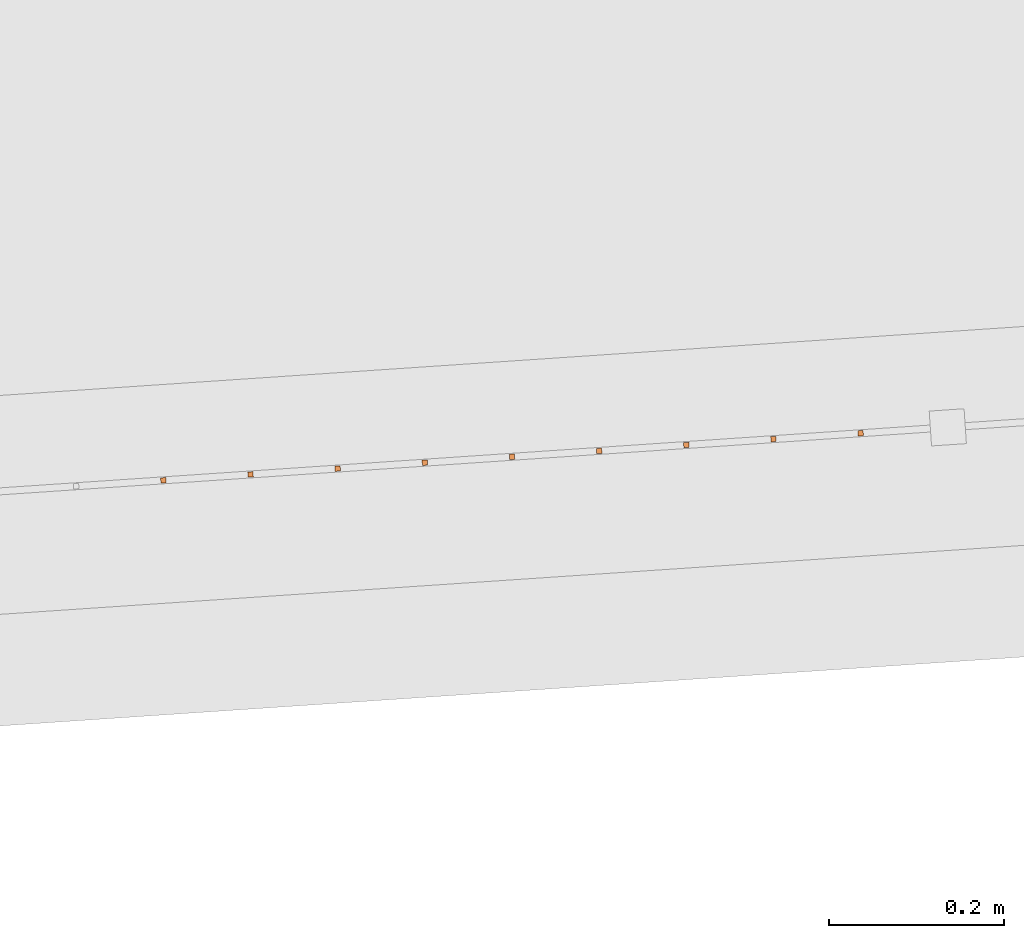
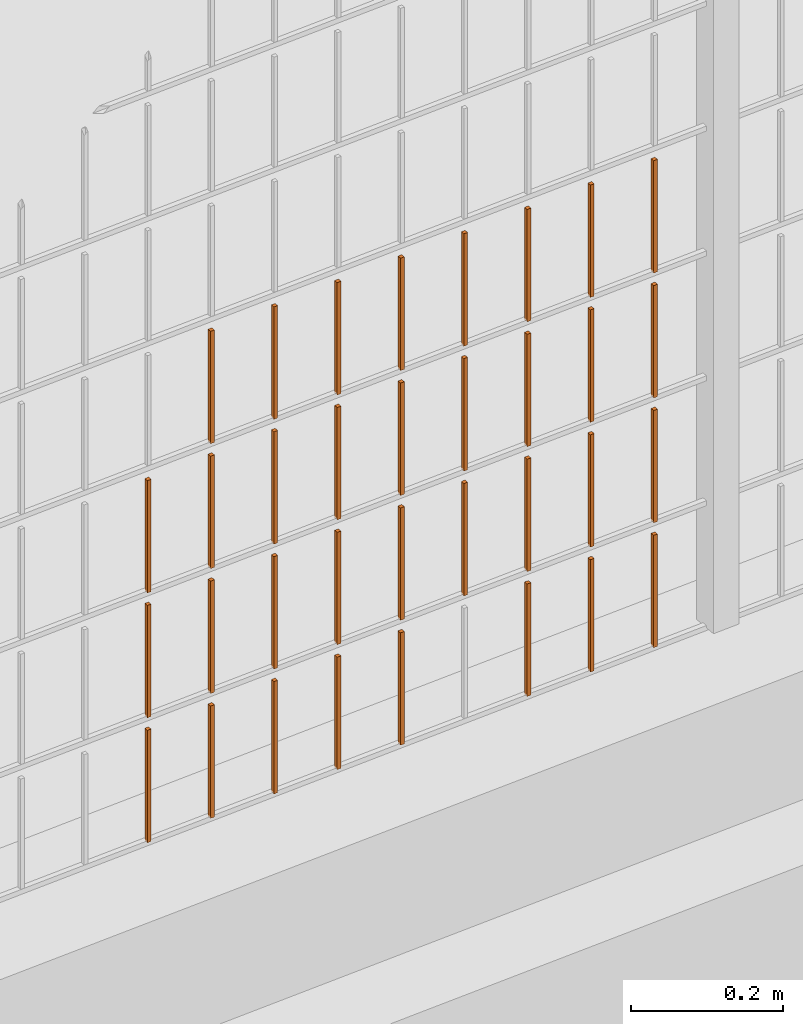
# One storey, part 262 of 1809: 34 proxies, 1 element without a shape of its own.
"""IFC2X3 building model written with IfcOpenShell, lengths in millimetres."""

from ifc_helpers import new_model, entity, si_unit, converted_unit, derived_unit, money_unit, direction, frame, origin_with_axes, place, context, subcontext, project, spatial, faceted_brep, source, transform, mapped, material, type_object, element, aggregate, save


model = new_model("IFC2X3")

# Units and contexts
model_context = context("Model", 3, precision=0.01, world=origin_with_axes(), true_north=direction((0.0, 1.0)))
body_context = subcontext(model_context, "Body", "Model", "MODEL_VIEW")
ifc_project = project(units=[si_unit("LENGTHUNIT", "METRE", prefix="MILLI"), si_unit("AREAUNIT", "SQUARE_METRE"), si_unit("VOLUMEUNIT", "CUBIC_METRE"), converted_unit("PLANEANGLEUNIT", "DEGREE", entity("IfcPlaneAngleMeasure", 0.0174532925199), si_unit("PLANEANGLEUNIT", "RADIAN"), dimensions=[0, 0, 0, 0, 0, 0, 0]), si_unit("SOLIDANGLEUNIT", "STERADIAN"), money_unit("EUR"), converted_unit("TIMEUNIT", "Year", entity("IfcTimeMeasure", 31556926.0), si_unit("TIMEUNIT", "SECOND"), dimensions=[0, 0, 1, 0, 0, 0, 0]), si_unit("MASSUNIT", "GRAM", prefix="KILO"), si_unit("THERMODYNAMICTEMPERATUREUNIT", "DEGREE_CELSIUS"), si_unit("LUMINOUSINTENSITYUNIT", "LUMEN"), si_unit("ENERGYUNIT", "JOULE", prefix="MEGA"), derived_unit("THERMALCONDUCTANCEUNIT", [(si_unit("POWERUNIT", "WATT"), 1), (si_unit("LENGTHUNIT", "METRE"), -1), (si_unit("THERMODYNAMICTEMPERATUREUNIT", "KELVIN"), -1)]), derived_unit("SPECIFICHEATCAPACITYUNIT", [(si_unit("ENERGYUNIT", "JOULE"), 1), (si_unit("MASSUNIT", "GRAM", prefix="KILO"), -1), (si_unit("THERMODYNAMICTEMPERATUREUNIT", "KELVIN"), -1)]), derived_unit("MASSDENSITYUNIT", [(si_unit("MASSUNIT", "GRAM", prefix="KILO"), 1), (si_unit("VOLUMEUNIT", "CUBIC_METRE"), -1)])], contexts=[model_context])

# Site, building, storey
site_placement = place(None, origin_with_axes())
site = spatial("IfcSite", under=ifc_project, at=site_placement, Name="Politse- ja Piirivalveameti ning Päästeameti ühishoone", CompositionType="ELEMENT")
building_placement = place(site_placement, origin_with_axes())
building = spatial("IfcBuilding", under=site, at=building_placement, Name="Politse- ja Piirivalveameti ning Päästeameti ühishoone", CompositionType="ELEMENT")
storey_placement = place(building_placement, origin_with_axes())
storey = spatial("IfcBuildingStorey", under=building, at=storey_placement, Name="Esimene korrus", CompositionType="ELEMENT", Elevation=0.0)

# Proxies
building_element_proxy_type_1 = type_object("IfcBuildingElementProxyType", Name="Railing Type", PredefinedType="NOTDEFINED")
proxy_1_placement = place(storey_placement, frame((89252.001212, -29183.4766571, 203.661247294), z_axis=(0.0, 0.0, 1.0), x_axis=(1.0, 0.0, 0.0)))
proxy_1 = element("IfcBuildingElementProxy", 1, at=proxy_1_placement, inside=storey, type_object=building_element_proxy_type_1, Name="PIIRDEAED")
ifc_material = material(Name="ET-03_Raud")
building_element_proxy_type_2 = type_object("IfcBuildingElementProxyType", Name="IfcBuildingElementProxy", PredefinedType="NOTDEFINED")
shared_shape_1 = source(origin_with_axes(), body_context, "Body", "Brep", [
    faceted_brep([(3.0, 3.0, -0.000752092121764), (-3.0, 3.0, -0.000752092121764), (-3.0, 3.0, 179.99926046), (3.0, 3.0, 179.99926046), (3.0, -3.0, 0.000752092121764), (-3.0, -3.0, 0.000752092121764), (-3.0, -3.0, 180.000764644), (3.0, -3.0, 180.000764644)], [[[0, 1, 2, 3]], [[0, 4, 5, 1]], [[1, 5, 6, 2]], [[3, 2, 6, 7]], [[4, 0, 3, 7]], [[5, 4, 7, 6]]]),
])
proxy_2_placement = place(proxy_1_placement, frame((-57894.7660487, -21208.3477212, 212.687247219), z_axis=(0.0, 0.0, 1.0), x_axis=(1.0, 0.0, 0.0)))
proxy_2 = element("IfcBuildingElementProxy", 2, at=proxy_2_placement, type_object=building_element_proxy_type_2, material=ifc_material, Name="BALUSTER - 001", context=body_context, shape_type="MappedRepresentation", body=[
    mapped(shared_shape_1, transform((0.0, 0.0, 0.0), x_axis=(-0.0673926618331, 0.997726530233, 0.0), y_axis=(-0.997726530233, -0.0673926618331, 0.0), z_axis=(0.0, 0.0, 1.0))),
])
proxy_3_placement = place(proxy_1_placement, frame((-57894.7660487, -21208.3477212, 612.687247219), z_axis=(0.0, 0.0, 1.0), x_axis=(1.0, 0.0, 0.0)))
proxy_3 = element("IfcBuildingElementProxy", 3, at=proxy_3_placement, type_object=building_element_proxy_type_2, material=ifc_material, Name="BALUSTER - 001", context=body_context, shape_type="MappedRepresentation", body=[
    mapped(shared_shape_1, transform((0.0, 0.0, 0.0), x_axis=(-0.0673926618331, 0.997726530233, 0.0), y_axis=(-0.997726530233, -0.0673926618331, 0.0), z_axis=(0.0, 0.0, 1.0))),
])
shared_shape_2 = source(origin_with_axes(), body_context, "Body", "Brep", [
    faceted_brep([(3.0, 3.0, -0.000752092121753), (-3.0, 3.0, -0.000752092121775), (-3.0, 3.0, 179.99926046), (3.0, 3.0, 179.99926046), (3.0, -3.0, 0.000752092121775), (-3.0, -3.0, 0.000752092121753), (-3.0, -3.0, 180.000764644), (3.0, -3.0, 180.000764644)], [[[0, 1, 2, 3]], [[0, 4, 5, 1]], [[1, 5, 6, 2]], [[3, 2, 6, 7]], [[4, 0, 3, 7]], [[5, 4, 7, 6]]]),
])
proxy_4_placement = place(proxy_1_placement, frame((-57695.2207427, -21194.8691889, 212.737386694), z_axis=(0.0, 0.0, 1.0), x_axis=(1.0, 0.0, 0.0)))
proxy_4 = element("IfcBuildingElementProxy", 4, at=proxy_4_placement, type_object=building_element_proxy_type_2, material=ifc_material, Name="BALUSTER - 001", context=body_context, shape_type="MappedRepresentation", body=[
    mapped(shared_shape_2, transform((0.0, 0.0, 0.0), x_axis=(-0.0673926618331, 0.997726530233, 0.0), y_axis=(-0.997726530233, -0.0673926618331, 0.0), z_axis=(0.0, 0.0, 1.0))),
])
shared_shape_3 = source(origin_with_axes(), body_context, "Body", "Brep", [
    faceted_brep([(3.0, 3.0, -0.000752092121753), (-3.0, 3.0, -0.000752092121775), (-3.0, 3.0, 179.99926046), (3.0, 3.0, 179.99926046), (3.0, -3.0, 0.000752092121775), (-3.0, -3.0, 0.000752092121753), (-3.0, -3.0, 180.000764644), (3.0, -3.0, 180.000764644)], [[[0, 1, 2, 3]], [[0, 4, 5, 1]], [[1, 5, 6, 2]], [[3, 2, 6, 7]], [[4, 0, 3, 7]], [[5, 4, 7, 6]]]),
])
proxy_5_placement = place(proxy_1_placement, frame((-57695.2207427, -21194.8691889, 612.737386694), z_axis=(0.0, 0.0, 1.0), x_axis=(1.0, 0.0, 0.0)))
proxy_5 = element("IfcBuildingElementProxy", 5, at=proxy_5_placement, type_object=building_element_proxy_type_2, material=ifc_material, Name="BALUSTER - 001", context=body_context, shape_type="MappedRepresentation", body=[
    mapped(shared_shape_3, transform((0.0, 0.0, 0.0), x_axis=(-0.0673926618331, 0.997726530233, 0.0), y_axis=(-0.997726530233, -0.0673926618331, 0.0), z_axis=(0.0, 0.0, 1.0))),
])
shared_shape_4 = source(origin_with_axes(), body_context, "Body", "Brep", [
    faceted_brep([(3.0, 3.0, -0.000752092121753), (-3.0, 3.0, -0.000752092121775), (-3.0, 3.0, 179.99926046), (3.0, 3.0, 179.99926046), (3.0, -3.0, 0.000752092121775), (-3.0, -3.0, 0.000752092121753), (-3.0, -3.0, 180.000764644), (3.0, -3.0, 180.000764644)], [[[0, 1, 2, 3]], [[0, 4, 5, 1]], [[1, 5, 6, 2]], [[3, 2, 6, 7]], [[4, 0, 3, 7]], [[5, 4, 7, 6]]]),
])
proxy_6_placement = place(proxy_1_placement, frame((-57695.2207427, -21194.8691889, 12.7373866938), z_axis=(0.0, 0.0, 1.0), x_axis=(1.0, 0.0, 0.0)))
proxy_6 = element("IfcBuildingElementProxy", 6, at=proxy_6_placement, type_object=building_element_proxy_type_2, material=ifc_material, Name="BALUSTER - 001", context=body_context, shape_type="MappedRepresentation", body=[
    mapped(shared_shape_4, transform((0.0, 0.0, 0.0), x_axis=(-0.0673926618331, 0.997726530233, 0.0), y_axis=(-0.997726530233, -0.0673926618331, 0.0), z_axis=(0.0, 0.0, 1.0))),
])
shared_shape_5 = source(origin_with_axes(), body_context, "Body", "Brep", [
    faceted_brep([(3.0, 3.0, -0.000752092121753), (-3.0, 3.0, -0.000752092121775), (-3.0, 3.0, 179.99926046), (3.0, 3.0, 179.99926046), (3.0, -3.0, 0.000752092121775), (-3.0, -3.0, 0.000752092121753), (-3.0, -3.0, 180.000764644), (3.0, -3.0, 180.000764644)], [[[0, 1, 2, 3]], [[0, 4, 5, 1]], [[1, 5, 6, 2]], [[3, 2, 6, 7]], [[4, 0, 3, 7]], [[5, 4, 7, 6]]]),
])
proxy_7_placement = place(proxy_1_placement, frame((-57695.2207427, -21194.8691889, 412.737386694), z_axis=(0.0, 0.0, 1.0), x_axis=(1.0, 0.0, 0.0)))
proxy_7 = element("IfcBuildingElementProxy", 7, at=proxy_7_placement, type_object=building_element_proxy_type_2, material=ifc_material, Name="BALUSTER - 001", context=body_context, shape_type="MappedRepresentation", body=[
    mapped(shared_shape_5, transform((0.0, 0.0, 0.0), x_axis=(-0.0673926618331, 0.997726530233, 0.0), y_axis=(-0.997726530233, -0.0673926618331, 0.0), z_axis=(0.0, 0.0, 1.0))),
])
shared_shape_6 = source(origin_with_axes(), body_context, "Body", "Brep", [
    faceted_brep([(3.0, 3.0, -0.000752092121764), (-3.0, 3.0, -0.000752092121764), (-3.0, 3.0, 179.99926046), (3.0, 3.0, 179.99926046), (3.0, -3.0, 0.000752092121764), (-3.0, -3.0, 0.000752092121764), (-3.0, -3.0, 180.000764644), (3.0, -3.0, 180.000764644)], [[[0, 1, 2, 3]], [[0, 4, 5, 1]], [[1, 5, 6, 2]], [[3, 2, 6, 7]], [[4, 0, 3, 7]], [[5, 4, 7, 6]]]),
])
proxy_8_placement = place(proxy_1_placement, frame((-57894.7660487, -21208.3477212, 412.687247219), z_axis=(0.0, 0.0, 1.0), x_axis=(1.0, 0.0, 0.0)))
proxy_8 = element("IfcBuildingElementProxy", 8, at=proxy_8_placement, type_object=building_element_proxy_type_2, material=ifc_material, Name="BALUSTER - 001", context=body_context, shape_type="MappedRepresentation", body=[
    mapped(shared_shape_6, transform((0.0, 0.0, 0.0), x_axis=(-0.0673926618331, 0.997726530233, 0.0), y_axis=(-0.997726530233, -0.0673926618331, 0.0), z_axis=(0.0, 0.0, 1.0))),
])
shared_shape_7 = source(origin_with_axes(), body_context, "Body", "Brep", [
    faceted_brep([(3.0, 3.0, -0.000752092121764), (-3.0, 3.0, -0.000752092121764), (-3.0, 3.0, 179.99926046), (3.0, 3.0, 179.99926046), (3.0, -3.0, 0.000752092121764), (-3.0, -3.0, 0.000752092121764), (-3.0, -3.0, 180.000764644), (3.0, -3.0, 180.000764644)], [[[0, 1, 2, 3]], [[0, 4, 5, 1]], [[1, 5, 6, 2]], [[3, 2, 6, 7]], [[4, 0, 3, 7]], [[5, 4, 7, 6]]]),
])
proxy_9_placement = place(proxy_1_placement, frame((-57296.1301306, -21167.9121241, 12.8376656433), z_axis=(0.0, 0.0, 1.0), x_axis=(1.0, 0.0, 0.0)))
proxy_9 = element("IfcBuildingElementProxy", 9, at=proxy_9_placement, type_object=building_element_proxy_type_2, material=ifc_material, Name="BALUSTER - 001", context=body_context, shape_type="MappedRepresentation", body=[
    mapped(shared_shape_7, transform((0.0, 0.0, 0.0), x_axis=(-0.0673926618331, 0.997726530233, 0.0), y_axis=(-0.997726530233, -0.0673926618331, 0.0), z_axis=(0.0, 0.0, 1.0))),
])
shared_shape_8 = source(origin_with_axes(), body_context, "Body", "Brep", [
    faceted_brep([(3.0, 3.0, -0.000752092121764), (-3.0, 3.0, -0.000752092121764), (-3.0, 3.0, 179.99926046), (3.0, 3.0, 179.99926046), (3.0, -3.0, 0.000752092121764), (-3.0, -3.0, 0.000752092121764), (-3.0, -3.0, 180.000764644), (3.0, -3.0, 180.000764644)], [[[0, 1, 2, 3]], [[0, 4, 5, 1]], [[1, 5, 6, 2]], [[3, 2, 6, 7]], [[4, 0, 3, 7]], [[5, 4, 7, 6]]]),
])
proxy_10_placement = place(proxy_1_placement, frame((-57395.9027836, -21174.6513903, 12.8125959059), z_axis=(0.0, 0.0, 1.0), x_axis=(1.0, 0.0, 0.0)))
proxy_10 = element("IfcBuildingElementProxy", 10, at=proxy_10_placement, type_object=building_element_proxy_type_2, material=ifc_material, Name="BALUSTER - 001", context=body_context, shape_type="MappedRepresentation", body=[
    mapped(shared_shape_8, transform((0.0, 0.0, 0.0), x_axis=(-0.0673926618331, 0.997726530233, 0.0), y_axis=(-0.997726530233, -0.0673926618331, 0.0), z_axis=(0.0, 0.0, 1.0))),
])
shared_shape_9 = source(origin_with_axes(), body_context, "Body", "Brep", [
    faceted_brep([(3.0, 3.0, -0.000752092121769), (-3.0, 3.0, -0.000752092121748), (-3.0, 3.0, 179.99926046), (3.0, 3.0, 179.99926046), (3.0, -3.0, 0.000752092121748), (-3.0, -3.0, 0.000752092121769), (-3.0, -3.0, 180.000764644), (3.0, -3.0, 180.000764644)], [[[0, 1, 2, 3]], [[0, 4, 5, 1]], [[1, 5, 6, 2]], [[3, 2, 6, 7]], [[4, 0, 3, 7]], [[5, 4, 7, 6]]]),
])
proxy_11_placement = place(proxy_1_placement, frame((-57495.6754366, -21181.3906565, 12.7875261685), z_axis=(0.0, 0.0, 1.0), x_axis=(1.0, 0.0, 0.0)))
proxy_11 = element("IfcBuildingElementProxy", 11, at=proxy_11_placement, type_object=building_element_proxy_type_2, material=ifc_material, Name="BALUSTER - 001", context=body_context, shape_type="MappedRepresentation", body=[
    mapped(shared_shape_9, transform((0.0, 0.0, 0.0), x_axis=(-0.0673926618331, 0.997726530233, 0.0), y_axis=(-0.997726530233, -0.0673926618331, 0.0), z_axis=(0.0, 0.0, 1.0))),
])
proxy_12_placement = place(proxy_1_placement, frame((-57495.6754366, -21181.3906565, 212.787526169), z_axis=(0.0, 0.0, 1.0), x_axis=(1.0, 0.0, 0.0)))
proxy_12 = element("IfcBuildingElementProxy", 12, at=proxy_12_placement, type_object=building_element_proxy_type_2, material=ifc_material, Name="BALUSTER - 001", context=body_context, shape_type="MappedRepresentation", body=[
    mapped(shared_shape_9, transform((0.0, 0.0, 0.0), x_axis=(-0.0673926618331, 0.997726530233, 0.0), y_axis=(-0.997726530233, -0.0673926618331, 0.0), z_axis=(0.0, 0.0, 1.0))),
])
shared_shape_10 = source(origin_with_axes(), body_context, "Body", "Brep", [
    faceted_brep([(3.0, 3.0, -0.000752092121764), (-3.0, 3.0, -0.000752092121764), (-3.0, 3.0, 179.99926046), (3.0, 3.0, 179.99926046), (3.0, -3.0, 0.000752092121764), (-3.0, -3.0, 0.000752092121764), (-3.0, -3.0, 180.000764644), (3.0, -3.0, 180.000764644)], [[[0, 1, 2, 3]], [[0, 4, 5, 1]], [[1, 5, 6, 2]], [[3, 2, 6, 7]], [[4, 0, 3, 7]], [[5, 4, 7, 6]]]),
])
proxy_13_placement = place(proxy_1_placement, frame((-57794.9933957, -21201.608455, 12.7123169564), z_axis=(0.0, 0.0, 1.0), x_axis=(1.0, 0.0, 0.0)))
proxy_13 = element("IfcBuildingElementProxy", 13, at=proxy_13_placement, type_object=building_element_proxy_type_2, material=ifc_material, Name="BALUSTER - 001", context=body_context, shape_type="MappedRepresentation", body=[
    mapped(shared_shape_10, transform((0.0, 0.0, 0.0), x_axis=(-0.0673926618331, 0.997726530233, 0.0), y_axis=(-0.997726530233, -0.0673926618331, 0.0), z_axis=(0.0, 0.0, 1.0))),
])
shared_shape_11 = source(origin_with_axes(), body_context, "Body", "Brep", [
    faceted_brep([(3.0, 3.0, -0.000752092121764), (-3.0, 3.0, -0.000752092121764), (-3.0, 3.0, 179.99926046), (3.0, 3.0, 179.99926046), (3.0, -3.0, 0.000752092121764), (-3.0, -3.0, 0.000752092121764), (-3.0, -3.0, 180.000764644), (3.0, -3.0, 180.000764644)], [[[0, 1, 2, 3]], [[0, 4, 5, 1]], [[1, 5, 6, 2]], [[3, 2, 6, 7]], [[4, 0, 3, 7]], [[5, 4, 7, 6]]]),
])
proxy_14_placement = place(proxy_1_placement, frame((-57894.7660487, -21208.3477212, 12.687247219), z_axis=(0.0, 0.0, 1.0), x_axis=(1.0, 0.0, 0.0)))
proxy_14 = element("IfcBuildingElementProxy", 14, at=proxy_14_placement, type_object=building_element_proxy_type_2, material=ifc_material, Name="BALUSTER - 001", context=body_context, shape_type="MappedRepresentation", body=[
    mapped(shared_shape_11, transform((0.0, 0.0, 0.0), x_axis=(-0.0673926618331, 0.997726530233, 0.0), y_axis=(-0.997726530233, -0.0673926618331, 0.0), z_axis=(0.0, 0.0, 1.0))),
])
shared_shape_12 = source(origin_with_axes(), body_context, "Body", "Brep", [
    faceted_brep([(3.0, 3.0, -0.000752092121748), (-3.0, 3.0, -0.00075209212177), (-3.0, 3.0, 179.99926046), (3.0, 3.0, 179.99926046), (3.0, -3.0, 0.00075209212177), (-3.0, -3.0, 0.000752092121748), (-3.0, -3.0, 180.000764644), (3.0, -3.0, 180.000764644)], [[[0, 1, 2, 3]], [[0, 4, 5, 1]], [[1, 5, 6, 2]], [[3, 2, 6, 7]], [[4, 0, 3, 7]], [[5, 4, 7, 6]]]),
])
proxy_15_placement = place(proxy_1_placement, frame((-57994.5387017, -21215.0869874, 12.6621774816), z_axis=(0.0, 0.0, 1.0), x_axis=(1.0, 0.0, 0.0)))
proxy_15 = element("IfcBuildingElementProxy", 15, at=proxy_15_placement, type_object=building_element_proxy_type_2, material=ifc_material, Name="BALUSTER - 001", context=body_context, shape_type="MappedRepresentation", body=[
    mapped(shared_shape_12, transform((0.0, 0.0, 0.0), x_axis=(-0.0673926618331, 0.997726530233, 0.0), y_axis=(-0.997726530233, -0.0673926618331, 0.0), z_axis=(0.0, 0.0, 1.0))),
])
shared_shape_13 = source(origin_with_axes(), body_context, "Body", "Brep", [
    faceted_brep([(3.0, 3.0, -0.000752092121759), (-3.0, 3.0, -0.000752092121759), (-3.0, 3.0, 179.99926046), (3.0, 3.0, 179.99926046), (3.0, -3.0, 0.000752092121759), (-3.0, -3.0, 0.000752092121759), (-3.0, -3.0, 180.000764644), (3.0, -3.0, 180.000764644)], [[[0, 1, 2, 3]], [[0, 4, 5, 1]], [[1, 5, 6, 2]], [[3, 2, 6, 7]], [[4, 0, 3, 7]], [[5, 4, 7, 6]]]),
])
proxy_16_placement = place(proxy_1_placement, frame((-58094.3113548, -21221.8262536, 12.6371077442), z_axis=(0.0, 0.0, 1.0), x_axis=(1.0, 0.0, 0.0)))
proxy_16 = element("IfcBuildingElementProxy", 16, at=proxy_16_placement, type_object=building_element_proxy_type_2, material=ifc_material, Name="BALUSTER - 001", context=body_context, shape_type="MappedRepresentation", body=[
    mapped(shared_shape_13, transform((0.0, 0.0, 0.0), x_axis=(-0.0673926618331, 0.997726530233, 0.0), y_axis=(-0.997726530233, -0.0673926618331, 0.0), z_axis=(0.0, 0.0, 1.0))),
])
proxy_17_placement = place(proxy_1_placement, frame((-58094.3113548, -21221.8262536, 212.637107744), z_axis=(0.0, 0.0, 1.0), x_axis=(1.0, 0.0, 0.0)))
proxy_17 = element("IfcBuildingElementProxy", 17, at=proxy_17_placement, type_object=building_element_proxy_type_2, material=ifc_material, Name="BALUSTER - 001", context=body_context, shape_type="MappedRepresentation", body=[
    mapped(shared_shape_13, transform((0.0, 0.0, 0.0), x_axis=(-0.0673926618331, 0.997726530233, 0.0), y_axis=(-0.997726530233, -0.0673926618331, 0.0), z_axis=(0.0, 0.0, 1.0))),
])
shared_shape_14 = source(origin_with_axes(), body_context, "Body", "Brep", [
    faceted_brep([(3.0, 3.0, -0.000752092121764), (-3.0, 3.0, -0.000752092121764), (-3.0, 3.0, 179.99926046), (3.0, 3.0, 179.99926046), (3.0, -3.0, 0.000752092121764), (-3.0, -3.0, 0.000752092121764), (-3.0, -3.0, 180.000764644), (3.0, -3.0, 180.000764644)], [[[0, 1, 2, 3]], [[0, 4, 5, 1]], [[1, 5, 6, 2]], [[3, 2, 6, 7]], [[4, 0, 3, 7]], [[5, 4, 7, 6]]]),
])
proxy_18_placement = place(proxy_1_placement, frame((-57296.1301306, -21167.9121241, 212.837665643), z_axis=(0.0, 0.0, 1.0), x_axis=(1.0, 0.0, 0.0)))
proxy_18 = element("IfcBuildingElementProxy", 18, at=proxy_18_placement, type_object=building_element_proxy_type_2, material=ifc_material, Name="BALUSTER - 001", context=body_context, shape_type="MappedRepresentation", body=[
    mapped(shared_shape_14, transform((0.0, 0.0, 0.0), x_axis=(-0.0673926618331, 0.997726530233, 0.0), y_axis=(-0.997726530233, -0.0673926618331, 0.0), z_axis=(0.0, 0.0, 1.0))),
])
shared_shape_15 = source(origin_with_axes(), body_context, "Body", "Brep", [
    faceted_brep([(3.0, 3.0, -0.000752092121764), (-3.0, 3.0, -0.000752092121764), (-3.0, 3.0, 179.99926046), (3.0, 3.0, 179.99926046), (3.0, -3.0, 0.000752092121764), (-3.0, -3.0, 0.000752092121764), (-3.0, -3.0, 180.000764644), (3.0, -3.0, 180.000764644)], [[[0, 1, 2, 3]], [[0, 4, 5, 1]], [[1, 5, 6, 2]], [[3, 2, 6, 7]], [[4, 0, 3, 7]], [[5, 4, 7, 6]]]),
])
proxy_19_placement = place(proxy_1_placement, frame((-57395.9027836, -21174.6513903, 212.812595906), z_axis=(0.0, 0.0, 1.0), x_axis=(1.0, 0.0, 0.0)))
proxy_19 = element("IfcBuildingElementProxy", 19, at=proxy_19_placement, type_object=building_element_proxy_type_2, material=ifc_material, Name="BALUSTER - 001", context=body_context, shape_type="MappedRepresentation", body=[
    mapped(shared_shape_15, transform((0.0, 0.0, 0.0), x_axis=(-0.0673926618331, 0.997726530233, 0.0), y_axis=(-0.997726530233, -0.0673926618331, 0.0), z_axis=(0.0, 0.0, 1.0))),
])
shared_shape_16 = source(origin_with_axes(), body_context, "Body", "Brep", [
    faceted_brep([(3.0, 3.0, -0.000752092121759), (-3.0, 3.0, -0.000752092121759), (-3.0, 3.0, 179.99926046), (3.0, 3.0, 179.99926046), (3.0, -3.0, 0.000752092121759), (-3.0, -3.0, 0.000752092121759), (-3.0, -3.0, 180.000764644), (3.0, -3.0, 180.000764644)], [[[0, 1, 2, 3]], [[0, 4, 5, 1]], [[1, 5, 6, 2]], [[3, 2, 6, 7]], [[4, 0, 3, 7]], [[5, 4, 7, 6]]]),
])
proxy_20_placement = place(proxy_1_placement, frame((-57595.4480896, -21188.1299227, 212.762456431), z_axis=(0.0, 0.0, 1.0), x_axis=(1.0, 0.0, 0.0)))
proxy_20 = element("IfcBuildingElementProxy", 20, at=proxy_20_placement, type_object=building_element_proxy_type_2, material=ifc_material, Name="BALUSTER - 001", context=body_context, shape_type="MappedRepresentation", body=[
    mapped(shared_shape_16, transform((0.0, 0.0, 0.0), x_axis=(-0.0673926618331, 0.997726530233, 0.0), y_axis=(-0.997726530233, -0.0673926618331, 0.0), z_axis=(0.0, 0.0, 1.0))),
])
proxy_21_placement = place(proxy_1_placement, frame((-57595.4480896, -21188.1299227, 412.762456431), z_axis=(0.0, 0.0, 1.0), x_axis=(1.0, 0.0, 0.0)))
proxy_21 = element("IfcBuildingElementProxy", 21, at=proxy_21_placement, type_object=building_element_proxy_type_2, material=ifc_material, Name="BALUSTER - 001", context=body_context, shape_type="MappedRepresentation", body=[
    mapped(shared_shape_16, transform((0.0, 0.0, 0.0), x_axis=(-0.0673926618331, 0.997726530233, 0.0), y_axis=(-0.997726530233, -0.0673926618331, 0.0), z_axis=(0.0, 0.0, 1.0))),
])
shared_shape_17 = source(origin_with_axes(), body_context, "Body", "Brep", [
    faceted_brep([(3.0, 3.0, -0.000752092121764), (-3.0, 3.0, -0.000752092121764), (-3.0, 3.0, 179.99926046), (3.0, 3.0, 179.99926046), (3.0, -3.0, 0.000752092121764), (-3.0, -3.0, 0.000752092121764), (-3.0, -3.0, 180.000764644), (3.0, -3.0, 180.000764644)], [[[0, 1, 2, 3]], [[0, 4, 5, 1]], [[1, 5, 6, 2]], [[3, 2, 6, 7]], [[4, 0, 3, 7]], [[5, 4, 7, 6]]]),
])
proxy_22_placement = place(proxy_1_placement, frame((-57794.9933957, -21201.608455, 212.712316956), z_axis=(0.0, 0.0, 1.0), x_axis=(1.0, 0.0, 0.0)))
proxy_22 = element("IfcBuildingElementProxy", 22, at=proxy_22_placement, type_object=building_element_proxy_type_2, material=ifc_material, Name="BALUSTER - 001", context=body_context, shape_type="MappedRepresentation", body=[
    mapped(shared_shape_17, transform((0.0, 0.0, 0.0), x_axis=(-0.0673926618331, 0.997726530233, 0.0), y_axis=(-0.997726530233, -0.0673926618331, 0.0), z_axis=(0.0, 0.0, 1.0))),
])
proxy_23_placement = place(proxy_1_placement, frame((-57395.9027836, -21174.6513903, 412.812595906), z_axis=(0.0, 0.0, 1.0), x_axis=(1.0, 0.0, 0.0)))
proxy_23 = element("IfcBuildingElementProxy", 23, at=proxy_23_placement, type_object=building_element_proxy_type_2, material=ifc_material, Name="BALUSTER - 001", context=body_context, shape_type="MappedRepresentation", body=[
    mapped(shared_shape_17, transform((0.0, 0.0, 0.0), x_axis=(-0.0673926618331, 0.997726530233, 0.0), y_axis=(-0.997726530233, -0.0673926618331, 0.0), z_axis=(0.0, 0.0, 1.0))),
])
proxy_24_placement = place(proxy_1_placement, frame((-57794.9933957, -21201.608455, 412.712316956), z_axis=(0.0, 0.0, 1.0), x_axis=(1.0, 0.0, 0.0)))
proxy_24 = element("IfcBuildingElementProxy", 24, at=proxy_24_placement, type_object=building_element_proxy_type_2, material=ifc_material, Name="BALUSTER - 001", context=body_context, shape_type="MappedRepresentation", body=[
    mapped(shared_shape_17, transform((0.0, 0.0, 0.0), x_axis=(-0.0673926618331, 0.997726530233, 0.0), y_axis=(-0.997726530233, -0.0673926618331, 0.0), z_axis=(0.0, 0.0, 1.0))),
])
proxy_25_placement = place(proxy_1_placement, frame((-57395.9027836, -21174.6513903, 612.812595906), z_axis=(0.0, 0.0, 1.0), x_axis=(1.0, 0.0, 0.0)))
proxy_25 = element("IfcBuildingElementProxy", 25, at=proxy_25_placement, type_object=building_element_proxy_type_2, material=ifc_material, Name="BALUSTER - 001", context=body_context, shape_type="MappedRepresentation", body=[
    mapped(shared_shape_17, transform((0.0, 0.0, 0.0), x_axis=(-0.0673926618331, 0.997726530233, 0.0), y_axis=(-0.997726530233, -0.0673926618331, 0.0), z_axis=(0.0, 0.0, 1.0))),
])
proxy_26_placement = place(proxy_1_placement, frame((-57794.9933957, -21201.608455, 612.712316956), z_axis=(0.0, 0.0, 1.0), x_axis=(1.0, 0.0, 0.0)))
proxy_26 = element("IfcBuildingElementProxy", 26, at=proxy_26_placement, type_object=building_element_proxy_type_2, material=ifc_material, Name="BALUSTER - 001", context=body_context, shape_type="MappedRepresentation", body=[
    mapped(shared_shape_17, transform((0.0, 0.0, 0.0), x_axis=(-0.0673926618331, 0.997726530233, 0.0), y_axis=(-0.997726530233, -0.0673926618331, 0.0), z_axis=(0.0, 0.0, 1.0))),
])
shared_shape_18 = source(origin_with_axes(), body_context, "Body", "Brep", [
    faceted_brep([(3.0, 3.0, -0.000752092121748), (-3.0, 3.0, -0.00075209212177), (-3.0, 3.0, 179.99926046), (3.0, 3.0, 179.99926046), (3.0, -3.0, 0.00075209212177), (-3.0, -3.0, 0.000752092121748), (-3.0, -3.0, 180.000764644), (3.0, -3.0, 180.000764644)], [[[0, 1, 2, 3]], [[0, 4, 5, 1]], [[1, 5, 6, 2]], [[3, 2, 6, 7]], [[4, 0, 3, 7]], [[5, 4, 7, 6]]]),
])
proxy_27_placement = place(proxy_1_placement, frame((-57994.5387017, -21215.0869874, 212.662177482), z_axis=(0.0, 0.0, 1.0), x_axis=(1.0, 0.0, 0.0)))
proxy_27 = element("IfcBuildingElementProxy", 27, at=proxy_27_placement, type_object=building_element_proxy_type_2, material=ifc_material, Name="BALUSTER - 001", context=body_context, shape_type="MappedRepresentation", body=[
    mapped(shared_shape_18, transform((0.0, 0.0, 0.0), x_axis=(-0.0673926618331, 0.997726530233, 0.0), y_axis=(-0.997726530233, -0.0673926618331, 0.0), z_axis=(0.0, 0.0, 1.0))),
])
shared_shape_19 = source(origin_with_axes(), body_context, "Body", "Brep", [
    faceted_brep([(3.0, 3.0, -0.000752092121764), (-3.0, 3.0, -0.000752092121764), (-3.0, 3.0, 179.99926046), (3.0, 3.0, 179.99926046), (3.0, -3.0, 0.000752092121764), (-3.0, -3.0, 0.000752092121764), (-3.0, -3.0, 180.000764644), (3.0, -3.0, 180.000764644)], [[[0, 1, 2, 3]], [[0, 4, 5, 1]], [[1, 5, 6, 2]], [[3, 2, 6, 7]], [[4, 0, 3, 7]], [[5, 4, 7, 6]]]),
])
proxy_28_placement = place(proxy_1_placement, frame((-57296.1301306, -21167.9121241, 412.837665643), z_axis=(0.0, 0.0, 1.0), x_axis=(1.0, 0.0, 0.0)))
proxy_28 = element("IfcBuildingElementProxy", 28, at=proxy_28_placement, type_object=building_element_proxy_type_2, material=ifc_material, Name="BALUSTER - 001", context=body_context, shape_type="MappedRepresentation", body=[
    mapped(shared_shape_19, transform((0.0, 0.0, 0.0), x_axis=(-0.0673926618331, 0.997726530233, 0.0), y_axis=(-0.997726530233, -0.0673926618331, 0.0), z_axis=(0.0, 0.0, 1.0))),
])
shared_shape_20 = source(origin_with_axes(), body_context, "Body", "Brep", [
    faceted_brep([(3.0, 3.0, -0.000752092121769), (-3.0, 3.0, -0.000752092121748), (-3.0, 3.0, 179.99926046), (3.0, 3.0, 179.99926046), (3.0, -3.0, 0.000752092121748), (-3.0, -3.0, 0.000752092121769), (-3.0, -3.0, 180.000764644), (3.0, -3.0, 180.000764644)], [[[0, 1, 2, 3]], [[0, 4, 5, 1]], [[1, 5, 6, 2]], [[3, 2, 6, 7]], [[4, 0, 3, 7]], [[5, 4, 7, 6]]]),
])
proxy_29_placement = place(proxy_1_placement, frame((-57495.6754366, -21181.3906565, 412.787526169), z_axis=(0.0, 0.0, 1.0), x_axis=(1.0, 0.0, 0.0)))
proxy_29 = element("IfcBuildingElementProxy", 29, at=proxy_29_placement, type_object=building_element_proxy_type_2, material=ifc_material, Name="BALUSTER - 001", context=body_context, shape_type="MappedRepresentation", body=[
    mapped(shared_shape_20, transform((0.0, 0.0, 0.0), x_axis=(-0.0673926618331, 0.997726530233, 0.0), y_axis=(-0.997726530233, -0.0673926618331, 0.0), z_axis=(0.0, 0.0, 1.0))),
])
shared_shape_21 = source(origin_with_axes(), body_context, "Body", "Brep", [
    faceted_brep([(3.0, 3.0, -0.000752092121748), (-3.0, 3.0, -0.00075209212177), (-3.0, 3.0, 179.99926046), (3.0, 3.0, 179.99926046), (3.0, -3.0, 0.00075209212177), (-3.0, -3.0, 0.000752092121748), (-3.0, -3.0, 180.000764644), (3.0, -3.0, 180.000764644)], [[[0, 1, 2, 3]], [[0, 4, 5, 1]], [[1, 5, 6, 2]], [[3, 2, 6, 7]], [[4, 0, 3, 7]], [[5, 4, 7, 6]]]),
])
proxy_30_placement = place(proxy_1_placement, frame((-57994.5387017, -21215.0869874, 412.662177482), z_axis=(0.0, 0.0, 1.0), x_axis=(1.0, 0.0, 0.0)))
proxy_30 = element("IfcBuildingElementProxy", 30, at=proxy_30_placement, type_object=building_element_proxy_type_2, material=ifc_material, Name="BALUSTER - 001", context=body_context, shape_type="MappedRepresentation", body=[
    mapped(shared_shape_21, transform((0.0, 0.0, 0.0), x_axis=(-0.0673926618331, 0.997726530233, 0.0), y_axis=(-0.997726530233, -0.0673926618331, 0.0), z_axis=(0.0, 0.0, 1.0))),
])
shared_shape_22 = source(origin_with_axes(), body_context, "Body", "Brep", [
    faceted_brep([(3.0, 3.0, -0.000752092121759), (-3.0, 3.0, -0.000752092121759), (-3.0, 3.0, 179.99926046), (3.0, 3.0, 179.99926046), (3.0, -3.0, 0.000752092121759), (-3.0, -3.0, 0.000752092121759), (-3.0, -3.0, 180.000764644), (3.0, -3.0, 180.000764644)], [[[0, 1, 2, 3]], [[0, 4, 5, 1]], [[1, 5, 6, 2]], [[3, 2, 6, 7]], [[4, 0, 3, 7]], [[5, 4, 7, 6]]]),
])
proxy_31_placement = place(proxy_1_placement, frame((-58094.3113548, -21221.8262536, 412.637107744), z_axis=(0.0, 0.0, 1.0), x_axis=(1.0, 0.0, 0.0)))
proxy_31 = element("IfcBuildingElementProxy", 31, at=proxy_31_placement, type_object=building_element_proxy_type_2, material=ifc_material, Name="BALUSTER - 001", context=body_context, shape_type="MappedRepresentation", body=[
    mapped(shared_shape_22, transform((0.0, 0.0, 0.0), x_axis=(-0.0673926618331, 0.997726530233, 0.0), y_axis=(-0.997726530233, -0.0673926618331, 0.0), z_axis=(0.0, 0.0, 1.0))),
])
shared_shape_23 = source(origin_with_axes(), body_context, "Body", "Brep", [
    faceted_brep([(3.0, 3.0, -0.000752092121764), (-3.0, 3.0, -0.000752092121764), (-3.0, 3.0, 179.99926046), (3.0, 3.0, 179.99926046), (3.0, -3.0, 0.000752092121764), (-3.0, -3.0, 0.000752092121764), (-3.0, -3.0, 180.000764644), (3.0, -3.0, 180.000764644)], [[[0, 1, 2, 3]], [[0, 4, 5, 1]], [[1, 5, 6, 2]], [[3, 2, 6, 7]], [[4, 0, 3, 7]], [[5, 4, 7, 6]]]),
])
proxy_32_placement = place(proxy_1_placement, frame((-57296.1301306, -21167.9121241, 612.837665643), z_axis=(0.0, 0.0, 1.0), x_axis=(1.0, 0.0, 0.0)))
proxy_32 = element("IfcBuildingElementProxy", 32, at=proxy_32_placement, type_object=building_element_proxy_type_2, material=ifc_material, Name="BALUSTER - 001", context=body_context, shape_type="MappedRepresentation", body=[
    mapped(shared_shape_23, transform((0.0, 0.0, 0.0), x_axis=(-0.0673926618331, 0.997726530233, 0.0), y_axis=(-0.997726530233, -0.0673926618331, 0.0), z_axis=(0.0, 0.0, 1.0))),
])
shared_shape_24 = source(origin_with_axes(), body_context, "Body", "Brep", [
    faceted_brep([(3.0, 3.0, -0.000752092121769), (-3.0, 3.0, -0.000752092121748), (-3.0, 3.0, 179.99926046), (3.0, 3.0, 179.99926046), (3.0, -3.0, 0.000752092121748), (-3.0, -3.0, 0.000752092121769), (-3.0, -3.0, 180.000764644), (3.0, -3.0, 180.000764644)], [[[0, 1, 2, 3]], [[0, 4, 5, 1]], [[1, 5, 6, 2]], [[3, 2, 6, 7]], [[4, 0, 3, 7]], [[5, 4, 7, 6]]]),
])
proxy_33_placement = place(proxy_1_placement, frame((-57495.6754366, -21181.3906565, 612.787526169), z_axis=(0.0, 0.0, 1.0), x_axis=(1.0, 0.0, 0.0)))
proxy_33 = element("IfcBuildingElementProxy", 33, at=proxy_33_placement, type_object=building_element_proxy_type_2, material=ifc_material, Name="BALUSTER - 001", context=body_context, shape_type="MappedRepresentation", body=[
    mapped(shared_shape_24, transform((0.0, 0.0, 0.0), x_axis=(-0.0673926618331, 0.997726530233, 0.0), y_axis=(-0.997726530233, -0.0673926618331, 0.0), z_axis=(0.0, 0.0, 1.0))),
])
shared_shape_25 = source(origin_with_axes(), body_context, "Body", "Brep", [
    faceted_brep([(3.0, 3.0, -0.000752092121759), (-3.0, 3.0, -0.000752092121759), (-3.0, 3.0, 179.99926046), (3.0, 3.0, 179.99926046), (3.0, -3.0, 0.000752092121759), (-3.0, -3.0, 0.000752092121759), (-3.0, -3.0, 180.000764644), (3.0, -3.0, 180.000764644)], [[[0, 1, 2, 3]], [[0, 4, 5, 1]], [[1, 5, 6, 2]], [[3, 2, 6, 7]], [[4, 0, 3, 7]], [[5, 4, 7, 6]]]),
])
proxy_34_placement = place(proxy_1_placement, frame((-57595.4480896, -21188.1299227, 612.762456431), z_axis=(0.0, 0.0, 1.0), x_axis=(1.0, 0.0, 0.0)))
proxy_34 = element("IfcBuildingElementProxy", 34, at=proxy_34_placement, type_object=building_element_proxy_type_2, material=ifc_material, Name="BALUSTER - 001", context=body_context, shape_type="MappedRepresentation", body=[
    mapped(shared_shape_25, transform((0.0, 0.0, 0.0), x_axis=(-0.0673926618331, 0.997726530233, 0.0), y_axis=(-0.997726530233, -0.0673926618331, 0.0), z_axis=(0.0, 0.0, 1.0))),
])
shared_shape_26 = source(origin_with_axes(), body_context, "Body", "Brep", [
    faceted_brep([(3.0, 3.0, -0.000752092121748), (-3.0, 3.0, -0.00075209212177), (-3.0, 3.0, 179.99926046), (3.0, 3.0, 179.99926046), (3.0, -3.0, 0.00075209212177), (-3.0, -3.0, 0.000752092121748), (-3.0, -3.0, 180.000764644), (3.0, -3.0, 180.000764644)], [[[0, 1, 2, 3]], [[0, 4, 5, 1]], [[1, 5, 6, 2]], [[3, 2, 6, 7]], [[4, 0, 3, 7]], [[5, 4, 7, 6]]]),
])
proxy_35_placement = place(proxy_1_placement, frame((-57994.5387017, -21215.0869874, 612.662177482), z_axis=(0.0, 0.0, 1.0), x_axis=(1.0, 0.0, 0.0)))
proxy_35 = element("IfcBuildingElementProxy", 35, at=proxy_35_placement, type_object=building_element_proxy_type_2, material=ifc_material, Name="BALUSTER - 001", context=body_context, shape_type="MappedRepresentation", body=[
    mapped(shared_shape_26, transform((0.0, 0.0, 0.0), x_axis=(-0.0673926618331, 0.997726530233, 0.0), y_axis=(-0.997726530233, -0.0673926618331, 0.0), z_axis=(0.0, 0.0, 1.0))),
])
aggregate(proxy_1, [proxy_9, proxy_10, proxy_11, proxy_6, proxy_13, proxy_14, proxy_15, proxy_16, proxy_18, proxy_19, proxy_12, proxy_20, proxy_4, proxy_22, proxy_2, proxy_27, proxy_17, proxy_28, proxy_23, proxy_29, proxy_21, proxy_7, proxy_24, proxy_8, proxy_30, proxy_31, proxy_32, proxy_25, proxy_33, proxy_34, proxy_5, proxy_26, proxy_3, proxy_35])

save(model, "model.ifc")
